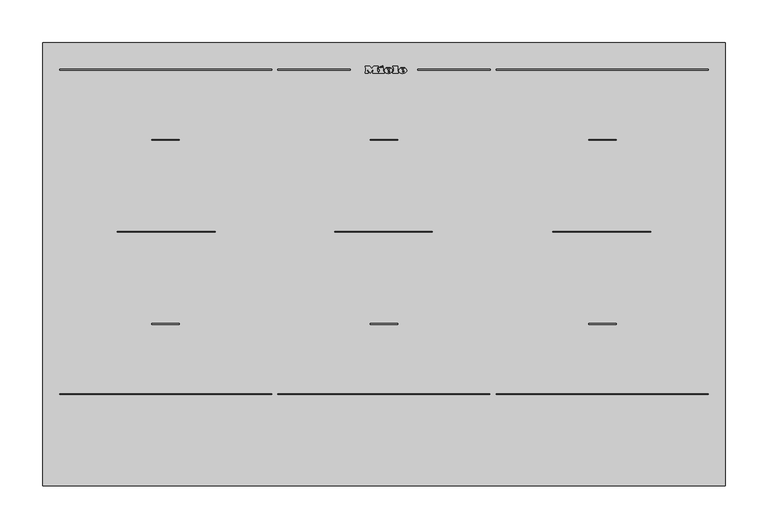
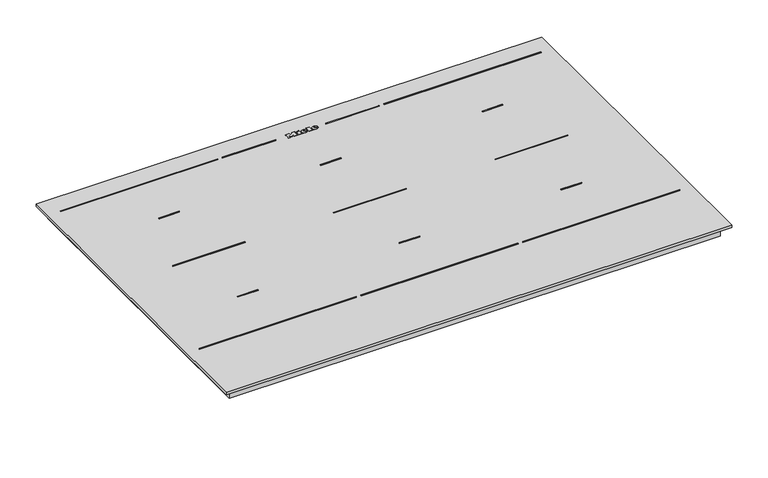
"""IFC4 building model written with IfcOpenShell, lengths in millimetres: proxy geometry, 12527320_AUS_KM7576-2FL : 26757673_AUS_12527320_KM7576-2FL."""

import ifcopenshell
import ifcopenshell.guid

model = None  # the IFC model being written
_history = None  # IfcOwnerHistory: only IFC2X3 demands one
_inside = {}  # id of a spatial element -> (the spatial element, [elements in it])
_under = {}  # id of a project, library or spatial element -> (it, [spatial elements below it])
_declared = {}  # id of a project -> (the project, [libraries it declares])
_typed = {}  # id of a type object -> (the type object, [elements of that type])
_made_of = {}  # id of a material, layer set ... -> (it, [elements and type objects made of it])


def new_model(schema):
    """Start an empty IFC model of exactly this schema.

    Asked for "IFC4X3", IfcOpenShell would pick the latest addendum, in which some entities
    have other attributes; the version numbers below select the first issue.
    IFC2X3 requires an IfcOwnerHistory on every rooted entity: one is made here for all.
    """
    global model, _history
    if schema == "IFC4X3":
        model = ifcopenshell.file(schema_version=(4, 3, 0, 0))
    else:
        model = ifcopenshell.file(schema=schema)
    _inside.clear()
    _under.clear()
    _declared.clear()
    _typed.clear()
    _made_of.clear()
    _history = None
    if model.schema == "IFC2X3":
        org = make("IfcOrganization", Name="unknown")
        user = make(
            "IfcPersonAndOrganization",
            ThePerson=make("IfcPerson", FamilyName="unknown"),
            TheOrganization=org,
        )
        app = make(
            "IfcApplication",
            ApplicationDeveloper=org,
            Version="unknown",
            ApplicationFullName="unknown",
            ApplicationIdentifier="unknown",
        )
        _history = make(
            "IfcOwnerHistory",
            OwningUser=user,
            OwningApplication=app,
            ChangeAction="ADDED",
            CreationDate=0,
        )
    return model


def make(cls, **values):
    """One entity of the class cls with the attributes given. An attribute that is None is left unset."""
    return model.create_entity(
        cls, **{name: value for name, value in values.items() if value is not None}
    )


def rooted(cls, **values):
    """An entity with a GlobalId (a new one), such as an element, a storey or a relation."""
    return make(cls, GlobalId=ifcopenshell.guid.new(), OwnerHistory=_history, **values)


def si_unit(unit_type, name, prefix=None):
    """IfcSIUnit, for example si_unit("LENGTHUNIT", "METRE", prefix="MILLI")."""
    return make("IfcSIUnit", UnitType=unit_type, Prefix=prefix, Name=name)


def assignment(units):
    """IfcUnitAssignment: the units of a project."""
    return None if units is None else make("IfcUnitAssignment", Units=units)


def point(xyz):
    """IfcCartesianPoint."""
    return None if xyz is None else make("IfcCartesianPoint", Coordinates=xyz)


def direction(xyz):
    """IfcDirection."""
    return None if xyz is None else make("IfcDirection", DirectionRatios=xyz)


def frame(location, z_axis=None, x_axis=None):
    """IfcAxis2Placement3D, a coordinate frame: its origin and axes. An axis left out is left unset."""
    return make(
        "IfcAxis2Placement3D",
        Location=point(location),
        Axis=direction(z_axis),
        RefDirection=direction(x_axis),
    )


def frame_2d(location, x_axis=None):
    """IfcAxis2Placement2D, a coordinate frame in the plane: its origin and x axis."""
    return make(
        "IfcAxis2Placement2D", Location=point(location), RefDirection=direction(x_axis)
    )


def origin():
    """The frame at (0, 0, 0) with its axes left unset."""
    return frame((0.0, 0.0, 0.0))


def origin_with_axes():
    """The frame at (0, 0, 0) with the z axis (0, 0, 1) and the x axis (1, 0, 0) written out."""
    return frame((0.0, 0.0, 0.0), z_axis=(0.0, 0.0, 1.0), x_axis=(1.0, 0.0, 0.0))


def place(relative_to, where):
    """IfcLocalPlacement: puts the frame where relative to a parent placement (None: the world)."""
    return make(
        "IfcLocalPlacement", PlacementRelTo=relative_to, RelativePlacement=where
    )


def context(
    kind, dimensions, precision=None, world=None, true_north=None, identifier=None
):
    """IfcGeometricRepresentationContext, for example the 3D "Model" context."""
    return make(
        "IfcGeometricRepresentationContext",
        ContextIdentifier=identifier,
        ContextType=kind,
        CoordinateSpaceDimension=dimensions,
        Precision=precision,
        WorldCoordinateSystem=world,
        TrueNorth=true_north,
    )


def project(units=None, contexts=None):
    """IfcProject with its units and contexts."""
    return rooted(
        "IfcProject",
        Name="project",
        RepresentationContexts=contexts,
        UnitsInContext=assignment(units),
    )


def spatial(cls, under=None, at=None, **own):
    """A site, building, storey or space (cls), placed at a placement, below another one or the project."""
    s = rooted(cls, ObjectPlacement=at, **own)
    if under is not None:
        _under.setdefault(under.id(), (under, []))[1].append(s)
    return s


def polyline(points):
    """IfcPolyline through the points."""
    return make("IfcPolyline", Points=[point(p) for p in points])


def circle_curve(where, radius):
    """IfcCircle in the frame where."""
    return make("IfcCircle", Position=where, Radius=radius)


def ellipse_curve(where, semi_axis1, semi_axis2):
    """IfcEllipse in the frame where."""
    return make(
        "IfcEllipse", Position=where, SemiAxis1=semi_axis1, SemiAxis2=semi_axis2
    )


def trimmed(basis, trim1, trim2, sense, master):
    """IfcTrimmedCurve: the piece of a basis curve between two trims."""
    return make(
        "IfcTrimmedCurve",
        BasisCurve=basis,
        Trim1=trim1,
        Trim2=trim2,
        SenseAgreement=sense,
        MasterRepresentation=master,
    )


def segment(curve, same_sense, transition):
    """IfcCompositeCurveSegment."""
    return make(
        "IfcCompositeCurveSegment",
        Transition=transition,
        SameSense=same_sense,
        ParentCurve=curve,
    )


def composite_curve(segments, self_intersect=None):
    """IfcCompositeCurve: segments joined end to end."""
    return make("IfcCompositeCurve", Segments=segments, SelfIntersect=self_intersect)


def outline(outer, holes=None, kind="AREA"):
    """IfcArbitraryClosedProfileDef: a profile drawn as a closed curve; with holes, ...WithVoids."""
    if holes is None:
        return make("IfcArbitraryClosedProfileDef", ProfileType=kind, OuterCurve=outer)
    return make(
        "IfcArbitraryProfileDefWithVoids",
        ProfileType=kind,
        OuterCurve=outer,
        InnerCurves=holes,
    )


def extrude(swept, where, along, depth):
    """IfcExtrudedAreaSolid: the profile swept, set in the frame where, extruded along a direction by depth."""
    return make(
        "IfcExtrudedAreaSolid",
        SweptArea=swept,
        Position=where,
        ExtrudedDirection=direction(along),
        Depth=depth,
    )


def shape(context_of_items, identifier, shape_type, items):
    """IfcShapeRepresentation: the items that make up one representation, for example the "Body"."""
    return make(
        "IfcShapeRepresentation",
        ContextOfItems=context_of_items,
        RepresentationIdentifier=identifier,
        RepresentationType=shape_type,
        Items=items,
    )


def source(mapping_origin, context_of_items, identifier, shape_type, items):
    """IfcRepresentationMap: a shape defined once, which mapped items show again and again."""
    return make(
        "IfcRepresentationMap",
        MappingOrigin=mapping_origin,
        MappedRepresentation=shape(context_of_items, identifier, shape_type, items),
    )


def transform(
    local_origin,
    x_axis=None,
    y_axis=None,
    z_axis=None,
    scale=None,
    scale2=None,
    scale3=None,
    uniform=True,
):
    """IfcCartesianTransformationOperator3D, or its non-uniform kind. x_axis, y_axis, z_axis: its Axis1, 2, 3."""
    if uniform:
        return make(
            "IfcCartesianTransformationOperator3D",
            Axis1=direction(x_axis),
            Axis2=direction(y_axis),
            LocalOrigin=point(local_origin),
            Scale=scale,
            Axis3=direction(z_axis),
        )
    return make(
        "IfcCartesianTransformationOperator3DnonUniform",
        Axis1=direction(x_axis),
        Axis2=direction(y_axis),
        LocalOrigin=point(local_origin),
        Scale=scale,
        Axis3=direction(z_axis),
        Scale2=scale2,
        Scale3=scale3,
    )


def mapped(mapping_source, mapping_target):
    """IfcMappedItem: shows the shape of a source again, moved by a transform."""
    return make(
        "IfcMappedItem", MappingSource=mapping_source, MappingTarget=mapping_target
    )


def made_of(thing, what):
    """Note that an element or type object is made of a material, layer set ...; save() writes the relation."""
    if what is not None:
        _made_of.setdefault(what.id(), (what, []))[1].append(thing)
    return thing


def element(
    cls,
    number,
    at=None,
    inside=None,
    cuts=None,
    type_object=None,
    material=None,
    context=None,
    identifier="Body",
    shape_type=None,
    held_by="IfcProductDefinitionShape",
    body=None,
    shapes=None,
    **own,
):
    """One element of the class cls, such as IfcWall. Its Tag is "e" and its number.

    at: its placement. inside: the storey or other place that contains it. cuts: it is an
    opening in that element (IfcRelVoidsElement). A single representation is given by context,
    identifier, shape_type and body (its items); several are given by shapes. held_by: the class
    of the entity that holds the representations. save() writes the other relations.
    """
    e = rooted(cls, Tag="e%d" % number, ObjectPlacement=at, **own)
    if body is not None:
        shapes = [shape(context, identifier, shape_type, body)]
    if shapes is not None:
        e.Representation = make(held_by, Representations=shapes)
    if inside is not None:
        _inside.setdefault(inside.id(), (inside, []))[1].append(e)
    if cuts is not None:
        rooted(
            "IfcRelVoidsElement", RelatingBuildingElement=cuts, RelatedOpeningElement=e
        )
    if type_object is not None:
        _typed.setdefault(type_object.id(), (type_object, []))[1].append(e)
    return made_of(e, material)


def aggregate(whole, parts):
    """IfcRelAggregates: a whole, such as a stair, and the parts it consists of."""
    return rooted("IfcRelAggregates", RelatingObject=whole, RelatedObjects=parts)


def save(model, path):
    """Write the relations noted so far, then the file.

    IfcRelAggregates (storeys below a building ...), IfcRelContainedInSpatialStructure (elements
    in a storey), IfcRelDefinesByType, IfcRelAssociatesMaterial and IfcRelDeclares: one each for
    every whole, place, type object, material and project.
    """
    for whole, parts in _under.values():
        aggregate(whole, parts)
    for where, things in _inside.values():
        rooted(
            "IfcRelContainedInSpatialStructure",
            RelatedElements=things,
            RelatingStructure=where,
        )
    for kind, things in _typed.values():
        rooted("IfcRelDefinesByType", RelatedObjects=things, RelatingType=kind)
    for what, things in _made_of.values():
        rooted("IfcRelAssociatesMaterial", RelatedObjects=things, RelatingMaterial=what)
    for by, libraries in _declared.values():
        rooted("IfcRelDeclares", RelatingContext=by, RelatedDefinitions=libraries)
    model.write(path)


def plane_surface(at):
    """IfcPlane: the flat surface through the origin of the frame at, square to its z axis."""
    return make("IfcPlane", Position=at)


def cylinder_surface(at, radius):
    """IfcCylindricalSurface: all points at the distance radius from the z axis of the frame at."""
    return make("IfcCylindricalSurface", Position=at, Radius=radius)


def revolved_surface(curve, axis_point, axis_direction):
    """IfcSurfaceOfRevolution: the curve turned about the line through axis_point along axis_direction."""
    return make(
        "IfcSurfaceOfRevolution",
        SweptCurve=make("IfcArbitraryOpenProfileDef", ProfileType="CURVE", Curve=curve),
        AxisPosition=make("IfcAxis1Placement", Location=point(axis_point), Axis=direction(axis_direction)),
    )


def extruded_surface(curve, direction_of_extrusion, depth):
    """IfcSurfaceOfLinearExtrusion: the curve pushed along a direction by depth."""
    return make(
        "IfcSurfaceOfLinearExtrusion",
        SweptCurve=make("IfcArbitraryOpenProfileDef", ProfileType="CURVE", Curve=curve),
        ExtrudedDirection=direction(direction_of_extrusion),
        Depth=depth,
    )


def advanced_brep(points, edges, surfaces, faces):
    """IfcAdvancedBrep: a solid bounded by faces that lie on surfaces and meet in shared edges.

    An edge is (start, end): straight between two places in points (the first is 0);
    or (start, end, curve); or (start, end, curve, False) where it runs against its curve.
    A face is (place in surfaces, loops), or (place, loops, False) where it looks against
    its surface's normal. A loop lists edges by number (the first is 1), with a minus sign
    where the edge is run from its end to its start. The first loop is the outer one.
    """
    corners = [point(p) for p in points]
    vertices = [make("IfcVertexPoint", VertexGeometry=c) for c in corners]
    made = []
    for start, end, *more in edges:
        made.append(
            make(
                "IfcEdgeCurve",
                EdgeStart=vertices[start],
                EdgeEnd=vertices[end],
                EdgeGeometry=more[0] if more else make("IfcPolyline", Points=[corners[start], corners[end]]),
                SameSense=more[1] if len(more) > 1 else True,
            )
        )
    hull = []
    for where, loops, *sense in faces:
        bounds = []
        for j, loop in enumerate(loops):
            ring = [make("IfcOrientedEdge", EdgeElement=made[abs(k) - 1], Orientation=k > 0) for k in loop]
            bounds.append(
                make(
                    "IfcFaceOuterBound" if j == 0 else "IfcFaceBound",
                    Bound=make("IfcEdgeLoop", EdgeList=ring),
                    Orientation=True,
                )
            )
        hull.append(make("IfcAdvancedFace", Bounds=bounds, FaceSurface=surfaces[where], SameSense=sense[0] if sense else True))
    return make("IfcAdvancedBrep", Outer=make("IfcClosedShell", CfsFaces=hull))


def specialty_equipment_4c04823a(model_context):
    return source(origin(), model_context, "Body", "SolidModel", [
        advanced_brep(
        [(21.2352576, 486.248886, 4.4802537), (21.2352576, 487.0568855, 4.4811551), (26.5872576, 487.0568855, 4.4811551), (17.2752576, 487.0568855, 4.4811551), (19.4752576, 484.3528872, 4.4781386), (26.4512576, 486.248886, 4.4802537), (24.0352576, 486.248886, 4.4802537), (22.1312576, 485.3528866, 4.4792542), (21.2352576, 488.0808849, 4.4822974), (21.2352576, 488.9528843, 4.4832701), (22.6032576, 488.9528843, 4.4832701), (22.6032576, 488.0808849, 4.4822974), (21.2352576, 486.2500016, 3.4802543), (22.1312576, 485.3540021, 3.4792548), (24.0352576, 486.2500016, 3.4802543), (26.4512576, 486.2500016, 3.4802543), (19.4752576, 484.3540027, 3.4781393), (17.2752576, 487.0580011, 3.4811557), (26.5872576, 487.0580011, 3.4811557), (21.2352576, 487.0580011, 3.4811557), (21.2352576, 488.0820004, 3.482298), (22.6032576, 488.0820004, 3.482298), (22.6032576, 488.9539999, 3.4832707), (21.2352576, 488.9539999, 3.4832707)],
        [
            (0, 1),
            (1, 2),
            (2, 3, ellipse_curve(frame((21.9312576, 487.0568855, 4.4811551), z_axis=(0.0, -0.0011155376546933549, 0.9999993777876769), x_axis=(-1.0, 0.0, 0.0)), 4.656, 3.848)),
            (3, 4, circle_curve(frame((20.3713013, 487.3288853, 4.4814585), z_axis=(0.0, -0.0011155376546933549, 0.9999993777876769), x_axis=(0.0, -0.9999993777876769, -0.0011155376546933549)), 3.1079688)),
            (4, 5, circle_curve(frame((21.8380512, 489.440884, 4.4838145), z_axis=(0.0, -0.0011155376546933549, 0.9999993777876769), x_axis=(0.0, -0.9999993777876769, -0.0011155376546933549)), 5.6098607)),
            (5, 6),
            (6, 7, circle_curve(frame((22.5223164, 486.9928856, 4.4810837), z_axis=(0.0, 0.0011155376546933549, -0.9999993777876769), x_axis=(0.0, -0.9999993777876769, -0.0011155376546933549)), 1.6859795)),
            (7, 0, circle_curve(frame((22.1312576, 486.248886, 4.4802537), z_axis=(0.0, 0.0011155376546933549, -0.9999993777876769), x_axis=(0.0, -0.9999993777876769, -0.0011155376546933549)), 0.896)),
            (8, 9),
            (9, 10, circle_curve(frame((21.9192576, 488.9528843, 4.4832701), z_axis=(0.0, 0.0011155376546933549, -0.9999993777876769), x_axis=(0.0, -0.9999993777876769, -0.0011155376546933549)), 0.684)),
            (10, 11),
            (11, 8),
            (12, 13, circle_curve(frame((22.1312576, 486.2500016, 3.4802543), z_axis=(0.0, -0.0011155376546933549, 0.9999993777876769), x_axis=(0.0, -0.9999993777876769, -0.0011155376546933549)), 0.896)),
            (13, 14, circle_curve(frame((22.5223164, 486.9940011, 3.4810843), z_axis=(0.0, -0.0011155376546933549, 0.9999993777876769), x_axis=(0.0, -0.9999993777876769, -0.0011155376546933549)), 1.6859795)),
            (14, 15),
            (15, 16, circle_curve(frame((21.8380512, 489.4419996, 3.4838151), z_axis=(0.0, 0.0011155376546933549, -0.9999993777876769), x_axis=(0.0, -0.9999993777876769, -0.0011155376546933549)), 5.6098607)),
            (16, 17, circle_curve(frame((20.3713013, 487.3300009, 3.4814591), z_axis=(0.0, 0.0011155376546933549, -0.9999993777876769), x_axis=(0.0, -0.9999993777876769, -0.0011155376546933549)), 3.1079688)),
            (17, 18, ellipse_curve(frame((21.9312576, 487.0580011, 3.4811557), z_axis=(0.0, 0.0011155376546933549, -0.9999993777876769), x_axis=(-1.0, 0.0, 0.0)), 4.656, 3.848)),
            (18, 19),
            (19, 12),
            (20, 21),
            (21, 22),
            (22, 23, circle_curve(frame((21.9192576, 488.9539999, 3.4832707), z_axis=(0.0, -0.0011155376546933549, 0.9999993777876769), x_axis=(0.0, -0.9999993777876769, -0.0011155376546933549)), 0.684)),
            (23, 20),
            (0, 12),
            (19, 1),
            (18, 2),
            (5, 15),
            (14, 6),
            (17, 3),
            (13, 7),
            (16, 4),
            (8, 20),
            (23, 9),
            (22, 10),
            (21, 11),
        ],
        [
            plane_surface(frame((21.2352576, 487.0568855, 4.4811551), z_axis=(0.0, -0.0011155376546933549, 0.9999993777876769), x_axis=(0.0, 0.9999993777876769, 0.0011155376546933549))),
            plane_surface(frame((21.2352576, 487.0580011, 3.4811557), z_axis=(0.0, 0.0011155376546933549, -0.9999993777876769), x_axis=(0.0, -0.9999993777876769, -0.0011155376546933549))),
            plane_surface(frame((21.2352576, 486.248886, 4.4802537), z_axis=(1.0000000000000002, 0.0, 0.0), x_axis=(0.0, 0.001115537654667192, -0.999999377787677))),
            plane_surface(frame((21.2352576, 487.0568855, 4.4811551), z_axis=(0.0, -0.999999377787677, -0.001115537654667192), x_axis=(0.0, 0.001115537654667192, -0.999999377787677))),
            plane_surface(frame((26.4512576, 486.248886, 4.4802537), z_axis=(0.0, 0.999999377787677, 0.001115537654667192), x_axis=(0.0, 0.001115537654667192, -0.999999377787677))),
            extruded_surface(trimmed(ellipse_curve(frame((21.9312576, 487.0591166, 2.4811563), z_axis=(0.0, -0.0011155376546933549, 0.9999993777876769), x_axis=(-1.0, 0.0, 0.0)), 4.656, 3.848), [point((26.5872576, 487.0591166, 2.4811563))], [point((17.2752576, 487.0591166, 2.4811563))], True, "CARTESIAN"), (0.0, -0.0011154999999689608, 0.9999994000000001), 1.0000000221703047),
            revolved_surface(polyline([(22.5223164, 485.30802264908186, 3.479203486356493), (22.5223164, 485.30690711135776, 4.479202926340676)]), (22.5223164, 486.9940011, 3.4810843), (0.0, 0.0011155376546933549, -0.9999993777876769)),
            revolved_surface(polyline([(22.1312576, 485.35400215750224, 3.4792547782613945), (22.1312576, 485.3528866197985, 4.479254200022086)]), (22.1312576, 486.2500016, 3.4802543), (0.0, 0.0011155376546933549, -0.9999993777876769)),
            cylinder_surface(frame((20.3713013, 487.3300009, 3.4814591), z_axis=(0.0, -0.0011155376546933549, 0.9999993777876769), x_axis=(0.0, -0.9999993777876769, -0.0011155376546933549)), 3.1079688),
            cylinder_surface(frame((21.8380512, 489.4419996, 3.4838151), z_axis=(0.0, -0.0011155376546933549, 0.9999993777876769), x_axis=(0.0, -0.9999993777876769, -0.0011155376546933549)), 5.6098607),
            plane_surface(frame((21.2352576, 488.0808849, 4.4822974), z_axis=(1.0000000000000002, 0.0, 0.0), x_axis=(0.0, 0.001115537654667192, -0.999999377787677))),
            revolved_surface(polyline([(21.9192576, 488.27000032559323, 3.4825076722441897), (21.9192576, 488.2688847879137, 4.482507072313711)]), (21.9192576, 488.9539999, 3.4832707), (0.0, 0.0011155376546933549, -0.9999993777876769)),
            plane_surface(frame((22.6032576, 488.9528843, 4.4832701), z_axis=(-1.0000000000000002, 0.0, 0.0), x_axis=(0.0, 0.001115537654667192, -0.999999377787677))),
            plane_surface(frame((22.6032576, 488.0808849, 4.4822974), z_axis=(0.0, 0.999999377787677, 0.001115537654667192), x_axis=(0.0, 0.001115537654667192, -0.999999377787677))),
        ],
        [
            (0, [[1, 2, 3, 4, 5, 6, 7, 8], [9, 10, 11, 12]]),
            (1, [[13, 14, 15, 16, 17, 18, 19, 20], [21, 22, 23, 24]]),
            (2, [[-1, 25, -20, 26]]),
            (3, [[-2, -26, -19, 27]]),
            (4, [[-6, 28, -15, 29]]),
            (5, [[-3, -27, -18, 30]]),
            (6, [[-7, -29, -14, 31]]),
            (7, [[-8, -31, -13, -25]]),
            (8, [[-4, -30, -17, 32]]),
            (9, [[-5, -32, -16, -28]]),
            (10, [[-9, 33, -24, 34]]),
            (11, [[-10, -34, -23, 35]]),
            (12, [[-11, -35, -22, 36]]),
            (13, [[-12, -36, -21, -33]]),
        ],
    ),
        advanced_brep(
        [(4.5392576, 486.248886, 4.4802537), (4.5392576, 487.0568855, 4.4811551), (9.8912576, 487.0568855, 4.4811551), (0.5792576, 487.0568855, 4.4811551), (2.7792576, 484.3528872, 4.4781386), (9.7552576, 486.248886, 4.4802537), (7.3392576, 486.248886, 4.4802537), (5.4352576, 485.3528866, 4.4792542), (4.5392576, 488.0808849, 4.4822974), (4.5392576, 488.9528843, 4.4832701), (5.9072576, 488.9528843, 4.4832701), (5.9072576, 488.0808849, 4.4822974), (4.5392576, 486.2500016, 3.4802543), (5.4352576, 485.3540021, 3.4792548), (7.3392576, 486.2500016, 3.4802543), (9.7552576, 486.2500016, 3.4802543), (2.7792576, 484.3540027, 3.4781393), (0.5792576, 487.0580011, 3.4811557), (9.8912576, 487.0580011, 3.4811557), (4.5392576, 487.0580011, 3.4811557), (4.5392576, 488.0820004, 3.482298), (5.9072576, 488.0820004, 3.482298), (5.9072576, 488.9539999, 3.4832707), (4.5392576, 488.9539999, 3.4832707)],
        [
            (0, 1),
            (1, 2),
            (2, 3, ellipse_curve(frame((5.2352576, 487.0568855, 4.4811551), z_axis=(0.0, -0.0011155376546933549, 0.9999993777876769), x_axis=(-1.0, 0.0, 0.0)), 4.656, 3.848)),
            (3, 4, circle_curve(frame((3.6753013, 487.3288853, 4.4814585), z_axis=(0.0, -0.0011155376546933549, 0.9999993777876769), x_axis=(0.0, -0.9999993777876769, -0.0011155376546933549)), 3.1079688)),
            (4, 5, circle_curve(frame((5.1420512, 489.440884, 4.4838145), z_axis=(0.0, -0.0011155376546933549, 0.9999993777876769), x_axis=(0.0, -0.9999993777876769, -0.0011155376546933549)), 5.6098607)),
            (5, 6),
            (6, 7, circle_curve(frame((5.8263164, 486.9928856, 4.4810837), z_axis=(0.0, 0.0011155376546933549, -0.9999993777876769), x_axis=(0.0, -0.9999993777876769, -0.0011155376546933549)), 1.6859795)),
            (7, 0, circle_curve(frame((5.4352576, 486.248886, 4.4802537), z_axis=(0.0, 0.0011155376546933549, -0.9999993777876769), x_axis=(0.0, -0.9999993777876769, -0.0011155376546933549)), 0.896)),
            (8, 9),
            (9, 10, circle_curve(frame((5.2232576, 488.9528843, 4.4832701), z_axis=(0.0, 0.0011155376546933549, -0.9999993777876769), x_axis=(0.0, -0.9999993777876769, -0.0011155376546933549)), 0.684)),
            (10, 11),
            (11, 8),
            (12, 13, circle_curve(frame((5.4352576, 486.2500016, 3.4802543), z_axis=(0.0, -0.0011155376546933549, 0.9999993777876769), x_axis=(0.0, -0.9999993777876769, -0.0011155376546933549)), 0.896)),
            (13, 14, circle_curve(frame((5.8263164, 486.9940011, 3.4810843), z_axis=(0.0, -0.0011155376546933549, 0.9999993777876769), x_axis=(0.0, -0.9999993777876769, -0.0011155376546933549)), 1.6859795)),
            (14, 15),
            (15, 16, circle_curve(frame((5.1420512, 489.4419996, 3.4838151), z_axis=(0.0, 0.0011155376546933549, -0.9999993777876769), x_axis=(0.0, -0.9999993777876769, -0.0011155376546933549)), 5.6098607)),
            (16, 17, circle_curve(frame((3.6753013, 487.3300009, 3.4814591), z_axis=(0.0, 0.0011155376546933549, -0.9999993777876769), x_axis=(0.0, -0.9999993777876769, -0.0011155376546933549)), 3.1079688)),
            (17, 18, ellipse_curve(frame((5.2352576, 487.0580011, 3.4811557), z_axis=(0.0, 0.0011155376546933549, -0.9999993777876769), x_axis=(-1.0, 0.0, 0.0)), 4.656, 3.848)),
            (18, 19),
            (19, 12),
            (20, 21),
            (21, 22),
            (22, 23, circle_curve(frame((5.2232576, 488.9539999, 3.4832707), z_axis=(0.0, -0.0011155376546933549, 0.9999993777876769), x_axis=(0.0, -0.9999993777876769, -0.0011155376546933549)), 0.684)),
            (23, 20),
            (0, 12),
            (19, 1),
            (18, 2),
            (5, 15),
            (14, 6),
            (17, 3),
            (13, 7),
            (16, 4),
            (8, 20),
            (23, 9),
            (22, 10),
            (21, 11),
        ],
        [
            plane_surface(frame((4.5392576, 487.0568855, 4.4811551), z_axis=(0.0, -0.0011155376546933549, 0.9999993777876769), x_axis=(0.0, 0.9999993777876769, 0.0011155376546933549))),
            plane_surface(frame((4.5392576, 487.0580011, 3.4811557), z_axis=(0.0, 0.0011155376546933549, -0.9999993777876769), x_axis=(0.0, -0.9999993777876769, -0.0011155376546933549))),
            plane_surface(frame((4.5392576, 486.248886, 4.4802537), z_axis=(1.0000000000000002, 0.0, 0.0), x_axis=(0.0, 0.001115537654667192, -0.999999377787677))),
            plane_surface(frame((4.5392576, 487.0568855, 4.4811551), z_axis=(0.0, -0.999999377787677, -0.001115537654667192), x_axis=(0.0, 0.001115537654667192, -0.999999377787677))),
            plane_surface(frame((9.7552576, 486.248886, 4.4802537), z_axis=(0.0, 0.999999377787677, 0.001115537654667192), x_axis=(0.0, 0.001115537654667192, -0.999999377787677))),
            extruded_surface(trimmed(ellipse_curve(frame((5.2352576, 487.0591166, 2.4811563), z_axis=(0.0, -0.0011155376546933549, 0.9999993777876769), x_axis=(-1.0, 0.0, 0.0)), 4.656, 3.848), [point((9.8912576, 487.0591166, 2.4811563))], [point((0.5792576, 487.0591166, 2.4811563))], True, "CARTESIAN"), (0.0, -0.0011154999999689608, 0.9999994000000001), 1.0000000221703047),
            revolved_surface(polyline([(5.8263164, 485.30802264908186, 3.479203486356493), (5.8263164, 485.30690711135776, 4.479202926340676)]), (5.8263164, 486.9940011, 3.4810843), (0.0, 0.0011155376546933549, -0.9999993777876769)),
            revolved_surface(polyline([(5.4352576, 485.35400215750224, 3.4792547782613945), (5.4352576, 485.3528866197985, 4.479254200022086)]), (5.4352576, 486.2500016, 3.4802543), (0.0, 0.0011155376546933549, -0.9999993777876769)),
            cylinder_surface(frame((3.6753013, 487.3300009, 3.4814591), z_axis=(0.0, -0.0011155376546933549, 0.9999993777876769), x_axis=(0.0, -0.9999993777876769, -0.0011155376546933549)), 3.1079688),
            cylinder_surface(frame((5.1420512, 489.4419996, 3.4838151), z_axis=(0.0, -0.0011155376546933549, 0.9999993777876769), x_axis=(0.0, -0.9999993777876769, -0.0011155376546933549)), 5.6098607),
            plane_surface(frame((4.5392576, 488.0808849, 4.4822974), z_axis=(1.0000000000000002, 0.0, 0.0), x_axis=(0.0, 0.001115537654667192, -0.999999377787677))),
            revolved_surface(polyline([(5.2232576, 488.27000032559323, 3.4825076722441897), (5.2232576, 488.2688847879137, 4.482507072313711)]), (5.2232576, 488.9539999, 3.4832707), (0.0, 0.0011155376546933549, -0.9999993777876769)),
            plane_surface(frame((5.9072576, 488.9528843, 4.4832701), z_axis=(-1.0000000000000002, 0.0, 0.0), x_axis=(0.0, 0.001115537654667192, -0.999999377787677))),
            plane_surface(frame((5.9072576, 488.0808849, 4.4822974), z_axis=(0.0, 0.999999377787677, 0.001115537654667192), x_axis=(0.0, 0.001115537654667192, -0.999999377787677))),
        ],
        [
            (0, [[1, 2, 3, 4, 5, 6, 7, 8], [9, 10, 11, 12]]),
            (1, [[13, 14, 15, 16, 17, 18, 19, 20], [21, 22, 23, 24]]),
            (2, [[-1, 25, -20, 26]]),
            (3, [[-2, -26, -19, 27]]),
            (4, [[-6, 28, -15, 29]]),
            (5, [[-3, -27, -18, 30]]),
            (6, [[-7, -29, -14, 31]]),
            (7, [[-8, -31, -13, -25]]),
            (8, [[-4, -30, -17, 32]]),
            (9, [[-5, -32, -16, -28]]),
            (10, [[-9, 33, -24, 34]]),
            (11, [[-10, -34, -23, 35]]),
            (12, [[-11, -35, -22, 36]]),
            (13, [[-12, -36, -21, -33]]),
        ],
    ),
        extrude(outline(polyline([(0.0, 0.0), (-0.0109086, -2.9993294), (-1.4390415, -2.9920868), (-1.4315307, 0.0), (0.0, 0.0)])), frame((-4.2047424, 491.8819981, 3.486537), z_axis=(0.0, -0.001115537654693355, 0.999999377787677), x_axis=(-0.4247202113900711, 0.9053240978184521, 0.0010099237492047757)), (0.0, 0.0, 1.0), 1.0),
        extrude(outline(polyline([(-0.4933908, 2.4141097), (-2.7800844, -2.4601583), (-7.0459742, -0.4588766), (-7.4401146, -1.2990179), (-8.656871, -0.7281939), (-5.976037, 4.9862153), (-4.7592806, 4.4153913), (-5.1636143, 3.5535223), (-2.1941493, 2.1604399), (-1.7898157, 3.022309), (-0.4933908, 2.4141097)])), frame((-4.2047424, 491.8819981, 3.486537), z_axis=(0.0, -0.001115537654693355, 0.999999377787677), x_axis=(-0.4247202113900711, 0.9053240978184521, 0.0010099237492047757)), (0.0, 0.0, 1.0), 1.0),
        extrude(outline(polyline([(0.0, 0.0), (0.0, -1.304), (-5.504, -1.304), (-5.504, 5.352), (-6.488, 5.352), (-6.488, 6.6960001), (0.0, 6.6960001), (0.0, 5.352), (-0.96, 5.352), (-0.96, 0.0), (0.0, 0.0)])), frame((10.3392576, 491.0499986, 3.4856089), z_axis=(0.0, -0.0011155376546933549, 0.9999993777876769), x_axis=(-1.0, 0.0, 0.0)), (0.0, 0.0, 1.0), 1.0),
        extrude(outline(polyline([(0.0, 0.0), (0.0, -1.304), (-5.576, -1.304), (-7.92, 1.6960001), (-10.256, -1.304), (-15.128, -1.304), (-15.128, 0.0), (-14.112, 0.0), (-14.112, 5.352), (-15.128, 5.352), (-15.128, 6.6960001), (-8.744, 6.6960001), (-8.744, 5.352), (-9.728, 5.352), (-9.728, 1.8807778), (-6.136, 6.6960001), (-2.56, 1.9488753), (-2.56, 5.352), (-3.52, 5.352), (-3.52, 6.6960001), (0.0, 6.6960001), (0.0, 5.352), (-0.968, 5.352), (-0.968, 0.0), (0.0, 0.0)])), frame((-22.1247424, 491.0499986, 3.4856089), z_axis=(0.0, -0.0011155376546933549, 0.9999993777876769), x_axis=(-1.0, 0.0, 0.0)), (0.0, 0.0, 1.0), 1.0),
        extrude(outline(polyline([(-131.7655147, 487.8966522), (-380.222276, 487.8966522), (-380.222276, 488.7125982), (-131.7655147, 488.7125982), (-131.7655147, 487.8966522)])), frame((0.0, 0.0, 4.0), z_axis=(0.0, 0.0, 1.0), x_axis=(1.0, 0.0, 0.0)), (0.0, 0.0, 1.0), 1.0),
        extrude(outline(polyline([(131.7655147, 487.8966522), (131.7655147, 488.7125982), (380.222276, 488.7125982), (380.222276, 487.8966522), (131.7655147, 487.8966522)])), frame((0.0, 0.0, 4.0), z_axis=(0.0, 0.0, 1.0), x_axis=(1.0, 0.0, 0.0)), (0.0, 0.0, 1.0), 1.0),
        extrude(outline(polyline([(-39.68302, 487.8966522), (-124.2308446, 487.8966522), (-124.2308446, 488.7125982), (-39.68302, 488.7125982), (-39.68302, 487.8966522)])), frame((0.0, 0.0, 4.0), z_axis=(0.0, 0.0, 1.0), x_axis=(1.0, 0.0, 0.0)), (0.0, 0.0, 1.0), 1.0),
        extrude(outline(polyline([(39.68302, 487.8966522), (39.68302, 488.7125982), (124.2308446, 488.7125982), (124.2308446, 487.8966522), (39.68302, 487.8966522)])), frame((0.0, 0.0, 4.0), z_axis=(0.0, 0.0, 1.0), x_axis=(1.0, 0.0, 0.0)), (0.0, 0.0, 1.0), 1.0),
        extrude(outline(polyline([(-131.7655147, 108.1463393), (-131.7655147, 107.3303933), (-380.222276, 107.3303933), (-380.222276, 108.1463393), (-131.7655147, 108.1463393)])), frame((0.0, 0.0, 4.0), z_axis=(0.0, 0.0, 1.0), x_axis=(1.0, 0.0, 0.0)), (0.0, 0.0, 1.0), 1.0),
        extrude(outline(polyline([(131.7655147, 108.1463393), (380.222276, 108.1463393), (380.222276, 107.3303933), (131.7655147, 107.3303933), (131.7655147, 108.1463393)])), frame((0.0, 0.0, 4.0), z_axis=(0.0, 0.0, 1.0), x_axis=(1.0, 0.0, 0.0)), (0.0, 0.0, 1.0), 1.0),
        extrude(outline(polyline([(124.1595995, 108.1463393), (124.1595995, 107.3303933), (-124.2971618, 107.3303933), (-124.2971618, 108.1463393), (124.1595995, 108.1463393)])), frame((0.0, 0.0, 4.0), z_axis=(0.0, 0.0, 1.0), x_axis=(1.0, 0.0, 0.0)), (0.0, 0.0, 1.0), 1.0),
        extrude(outline(polyline([(-272.2721726, 189.6033144), (-272.2721726, 190.4972102), (-240.0058274, 190.4972102), (-240.0058274, 189.6033144), (-272.2721726, 189.6033144)])), frame((0.0, 0.0, 4.0), z_axis=(0.0, 0.0, 1.0), x_axis=(1.0, 0.0, 0.0)), (0.0, 0.0, 1.0), 1.0),
        extrude(outline(polyline([(272.2721726, 189.6033144), (240.0058274, 189.6033144), (240.0058274, 190.4972102), (272.2721726, 190.4972102), (272.2721726, 189.6033144)])), frame((0.0, 0.0, 4.0), z_axis=(0.0, 0.0, 1.0), x_axis=(1.0, 0.0, 0.0)), (0.0, 0.0, 1.0), 1.0),
        extrude(outline(polyline([(272.0094161, 406.4760801), (272.0094161, 405.5821842), (239.7430709, 405.5821842), (239.7430709, 406.4760801), (272.0094161, 406.4760801)])), frame((0.0, 0.0, 4.0), z_axis=(0.0, 0.0, 1.0), x_axis=(1.0, 0.0, 0.0)), (0.0, 0.0, 1.0), 1.0),
        extrude(outline(polyline([(-272.0094161, 406.4760801), (-239.7430709, 406.4760801), (-239.7430709, 405.5821842), (-272.0094161, 405.5821842), (-272.0094161, 406.4760801)])), frame((0.0, 0.0, 4.0), z_axis=(0.0, 0.0, 1.0), x_axis=(1.0, 0.0, 0.0)), (0.0, 0.0, 1.0), 1.0),
        extrude(outline(polyline([(16.0706846, 189.6033144), (-16.1956607, 189.6033144), (-16.1956607, 190.4972102), (16.0706846, 190.4972102), (16.0706846, 189.6033144)])), frame((0.0, 0.0, 4.0), z_axis=(0.0, 0.0, 1.0), x_axis=(1.0, 0.0, 0.0)), (0.0, 0.0, 1.0), 1.0),
        extrude(outline(polyline([(16.0706846, 405.5600404), (-16.1956607, 405.5600404), (-16.1956607, 406.4539362), (16.0706846, 406.4539362), (16.0706846, 405.5600404)])), frame((0.0, 0.0, 4.0), z_axis=(0.0, 0.0, 1.0), x_axis=(1.0, 0.0, 0.0)), (0.0, 0.0, 1.0), 1.0),
        extrude(outline(polyline([(56.7673099, 297.5570405), (-57.7921908, 297.5570405), (-57.7921908, 298.3729866), (56.7673099, 298.3729866), (56.7673099, 297.5570405)])), frame((0.0, 0.0, 4.0), z_axis=(0.0, 0.0, 1.0), x_axis=(1.0, 0.0, 0.0)), (0.0, 0.0, 1.0), 1.0),
        extrude(outline(polyline([(312.476825, 297.5570405), (197.9173243, 297.5570405), (197.9173243, 298.3729866), (312.476825, 298.3729866), (312.476825, 297.5570405)])), frame((0.0, 0.0, 4.0), z_axis=(0.0, 0.0, 1.0), x_axis=(1.0, 0.0, 0.0)), (0.0, 0.0, 1.0), 1.0),
        extrude(outline(polyline([(-312.476825, 297.5570405), (-312.476825, 298.3729866), (-197.9173243, 298.3729866), (-197.9173243, 297.5570405), (-312.476825, 297.5570405)])), frame((0.0, 0.0, 4.0), z_axis=(0.0, 0.0, 1.0), x_axis=(1.0, 0.0, 0.0)), (0.0, 0.0, 1.0), 1.0),
        extrude(outline(polyline([(400.0, 520.0), (400.0, 0.0), (-400.0, 0.0), (-400.0, 520.0), (400.0, 520.0)])), origin_with_axes(), (0.0, 0.0, 1.0), 4.0),
        extrude(outline(polyline([(388.5, 508.5), (388.5, 11.5), (-388.5, 11.5), (-388.5, 508.5), (388.5, 508.5)])), frame((0.0, 0.0, -16.8), z_axis=(0.0, 0.0, 1.0), x_axis=(1.0, 0.0, 0.0)), (0.0, 0.0, 1.0), 16.8),
        extrude(outline(polyline([(-103.0, 472.3), (-103.0, 101.3), (-331.0, 101.3), (-331.0, 472.3), (-103.0, 472.3)])), frame((0.0, 0.0, -46.5), z_axis=(0.0, 0.0, 1.0), x_axis=(1.0, 0.0, 0.0)), (0.0, 0.0, 1.0), 29.7),
        extrude(outline(polyline([(-82.8, 338.7), (-104.2, 338.7), (-104.2, 422.1), (-82.8, 422.1), (-82.8, 472.3), (323.2, 472.3), (323.2, 101.3), (-82.8, 101.3), (-82.8, 338.7)])), frame((0.0, 0.0, -46.5), z_axis=(0.0, 0.0, 1.0), x_axis=(1.0, 0.0, 0.0)), (0.0, 0.0, 1.0), 29.7),
        extrude(outline(polyline([(261.2772603, 435.5), (253.9, 435.5), (253.9, 436.7557039), (260.0215564, 436.7557039), (260.0215564, 440.0519266), (254.370889, 440.0519266), (254.370889, 441.3076304), (260.0215564, 441.3076304), (260.0215564, 444.2899271), (254.056963, 444.2899271), (254.056963, 445.545631), (261.2772603, 445.545631), (261.2772603, 435.5)])), frame((0.0, 0.0, -77.5), z_axis=(0.0, 0.0, 1.0), x_axis=(1.0, 0.0, 0.0)), (0.0, 0.0, 1.0), 1.0),
        extrude(outline(polyline([(252.0164442, 435.5), (245.7379248, 435.5), (245.7379248, 436.7557039), (250.7607403, 436.7557039), (250.7607403, 445.545631), (252.0164442, 445.545631), (252.0164442, 435.5)])), frame((0.0, 0.0, -77.5), z_axis=(0.0, 0.0, 1.0), x_axis=(1.0, 0.0, 0.0)), (0.0, 0.0, 1.0), 1.0),
        extrude(outline(composite_curve([segment(trimmed(circle_curve(frame_2d((253.9, 440.5)), 7.5), [point((253.9, 448.0))], [point((253.9, 433.0))], False, "CARTESIAN"), True, "CONTINUOUS"), segment(trimmed(circle_curve(frame_2d((253.9, 440.5)), 7.5), [point((253.9, 433.0))], [point((253.9, 448.0))], False, "CARTESIAN"), True, "CONTINUOUS")], self_intersect=False)), frame((0.0, 0.0, -76.5), z_axis=(0.0, 0.0, 1.0), x_axis=(1.0, 0.0, 0.0)), (0.0, 0.0, 1.0), 30.0),
        extrude(outline(composite_curve([segment(trimmed(circle_curve(frame_2d((-381.0, 80.0)), 3.0), [point((-381.0, 83.0))], [point((-381.0, 77.0))], False, "CARTESIAN"), True, "CONTINUOUS"), segment(trimmed(circle_curve(frame_2d((-381.0, 80.0)), 3.0), [point((-381.0, 77.0))], [point((-381.0, 83.0))], False, "CARTESIAN"), True, "CONTINUOUS")], self_intersect=False)), frame((0.0, 0.0, -22.0), z_axis=(0.0, 0.0, 1.0), x_axis=(1.0, 0.0, 0.0)), (0.0, 0.0, 1.0), 5.2),
        extrude(outline(composite_curve([segment(trimmed(circle_curve(frame_2d((381.0, 440.0)), 3.0), [point((381.0, 443.0))], [point((381.0, 437.0))], False, "CARTESIAN"), True, "CONTINUOUS"), segment(trimmed(circle_curve(frame_2d((381.0, 440.0)), 3.0), [point((381.0, 437.0))], [point((381.0, 443.0))], False, "CARTESIAN"), True, "CONTINUOUS")], self_intersect=False)), frame((0.0, 0.0, -22.0), z_axis=(0.0, 0.0, 1.0), x_axis=(1.0, 0.0, 0.0)), (0.0, 0.0, 1.0), 5.2),
    ])


if __name__ == "__main__":
    model = new_model("IFC4")
    model_context = context("Model", 3, world=origin())
    ifc_project = project(units=[si_unit("LENGTHUNIT", "METRE", prefix="MILLI")], contexts=[model_context])
    site = spatial("IfcSite", under=ifc_project)
    building = spatial("IfcBuilding", under=site)
    placement = place(None, origin())
    specialty_equipment_shape = specialty_equipment_4c04823a(model_context)
    element("IfcBuildingElementProxy", 1, Name="12527320_AUS_KM7576-2FL : 26757673_AUS_12527320_KM7576-2FL", ObjectType="12527320_AUS_KM7576-2FL : 26757673_AUS_12527320_KM7576-2FL", at=placement, inside=building, context=model_context, shape_type="MappedRepresentation", body=[
        mapped(specialty_equipment_shape, transform((0.0, 0.0, 0.0), x_axis=(1.0, 0.0, 0.0), y_axis=(0.0, 1.0, 0.0), z_axis=(0.0, 0.0, 1.0))),
    ])
    save(model, "model.ifc")
